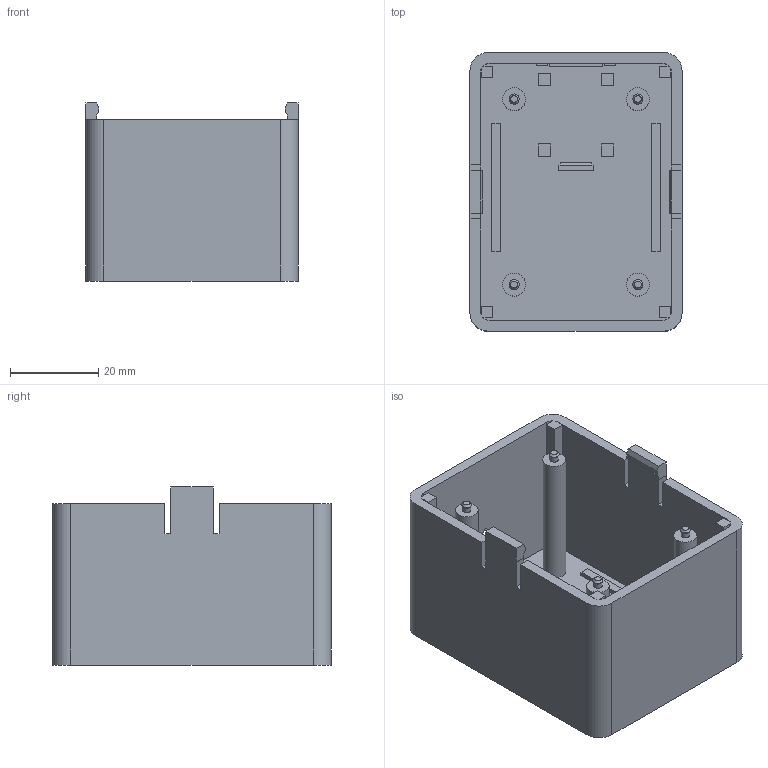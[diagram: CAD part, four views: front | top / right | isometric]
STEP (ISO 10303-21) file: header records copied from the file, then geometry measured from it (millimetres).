
FILE_DESCRIPTION(('Open CASCADE Model'),'2;1');
FILE_NAME('Open CASCADE Shape Model','2026-08-25T22:11:23',('Author'),( 'Open CASCADE'),'Open CASCADE STEP processor 7.8','Open CASCADE 7.8' ,'Unknown');
FILE_SCHEMA(('AUTOMOTIVE_DESIGN { 1 0 10303 214 1 1 1 1 }'));
Length unit declared in the file: millimetre
Products named in the file (1): Open CASCADE STEP translator 7.8 1
Bounding box: 48 x 63 x 40.3 mm (x, y, z)
Volume: 26806.7 mm3; surface area: 24386.2 mm2
Topology: 1 solids, 1 shells, 147 faces, 383 edges, 252 vertices
Faces by surface type: plane 119, cylinder 20, cone 8
Full cylindrical faces by diameter (mm): 1.9 x4, 5.2 x4
Entity records: 9360 total; most frequent: CARTESIAN_POINT 1699, DIRECTION 1383, LINE 959, VECTOR 959, ORIENTED_EDGE 766, PCURVE 766, DEFINITIONAL_REPRESENTATION 766, EDGE_CURVE 383
